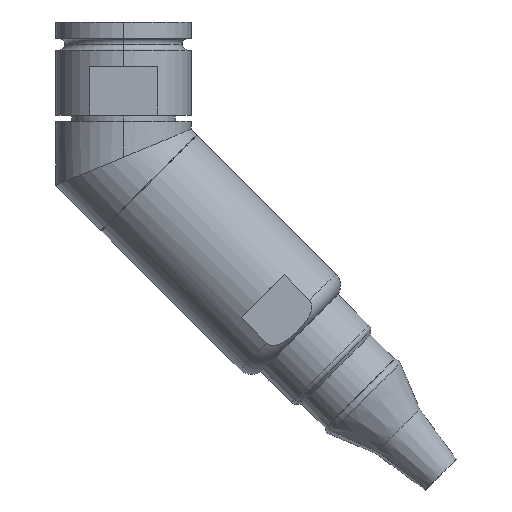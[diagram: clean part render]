
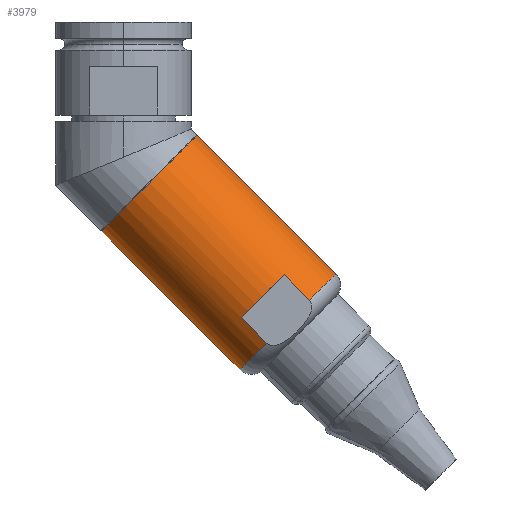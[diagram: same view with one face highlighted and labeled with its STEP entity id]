
A CAD part, left-side view. The second image highlights one B-rep face of the part: STEP entity #3979.
In plain terms, the highlighted cylindrical face has radius 13.208 mm (diameter 26.416 mm), a partial arc.
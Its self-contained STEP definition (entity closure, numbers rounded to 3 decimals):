
#2 = VERTEX_POINT ( 'NONE', #5886 ) ;
#108 = CARTESIAN_POINT ( 'NONE',  ( 0., -32.067, -52.777 ) ) ;
#118 = VERTEX_POINT ( 'NONE', #3607 ) ;
#131 = VECTOR ( 'NONE', #6110, 1000. ) ;
#150 = EDGE_CURVE ( 'NONE', #4440, #2, #1376, .T. ) ;
#167 = EDGE_CURVE ( 'NONE', #353, #3249, #1030, .T. ) ;
#193 = CARTESIAN_POINT ( 'NONE',  ( 0., -22.727, -62.117 ) ) ;
#241 = DIRECTION ( 'NONE',  ( 0., 0.707, 0.707 ) ) ;
#269 = DIRECTION ( 'NONE',  ( 0., -0.707, -0.707 ) ) ;
#353 = VERTEX_POINT ( 'NONE', #193 ) ;
#361 = LINE ( 'NONE', #3958, #2339 ) ;
#443 = EDGE_LOOP ( 'NONE', ( #5225, #2563, #3494, #5213, #1754, #6262, #1544, #1303 ) ) ;
#483 = CARTESIAN_POINT ( 'NONE',  ( 0., -14.375, -16.407 ) ) ;
#519 = CARTESIAN_POINT ( 'NONE',  ( 0., -32.067, -52.777 ) ) ;
#730 = CIRCLE ( 'NONE', #5773, 13.208 ) ;
#977 = VECTOR ( 'NONE', #269, 1000. ) ;
#993 = VERTEX_POINT ( 'NONE', #4071 ) ;
#1030 = LINE ( 'NONE', #1500, #131 ) ;
#1143 = CIRCLE ( 'NONE', #4813, 13.208 ) ;
#1201 = CARTESIAN_POINT ( 'NONE',  ( -11.811, -31.308, -43.658 ) ) ;
#1303 = ORIENTED_EDGE ( 'NONE', *, *, #2730, .F. ) ;
#1376 = CIRCLE ( 'NONE', #5046, 13.208 ) ;
#1426 = DIRECTION ( 'NONE',  ( 0., -0.707, -0.707 ) ) ;
#1452 = CARTESIAN_POINT ( 'NONE',  ( 0., 4.303, -35.086 ) ) ;
#1500 = CARTESIAN_POINT ( 'NONE',  ( 0., 4.303, -35.086 ) ) ;
#1544 = ORIENTED_EDGE ( 'NONE', *, *, #1683, .T. ) ;
#1572 = DIRECTION ( 'NONE',  ( 0., 0.707, 0.707 ) ) ;
#1683 = EDGE_CURVE ( 'NONE', #2, #5489, #5068, .T. ) ;
#1754 = ORIENTED_EDGE ( 'NONE', *, *, #5528, .T. ) ;
#1841 = AXIS2_PLACEMENT_3D ( 'NONE', #4722, #241, #5752 ) ;
#2180 = DIRECTION ( 'NONE',  ( 0., -0.707, 0.707 ) ) ;
#2339 = VECTOR ( 'NONE', #1426, 1000. ) ;
#2553 = CARTESIAN_POINT ( 'NONE',  ( 0., -14.375, -16.407 ) ) ;
#2563 = ORIENTED_EDGE ( 'NONE', *, *, #5064, .T. ) ;
#2578 = DIRECTION ( 'NONE',  ( 0., -0.707, 0.707 ) ) ;
#2647 = DIRECTION ( 'NONE',  ( 0., -0.707, -0.707 ) ) ;
#2680 = LINE ( 'NONE', #1201, #977 ) ;
#2721 = CYLINDRICAL_SURFACE ( 'NONE', #1841, 13.208 ) ;
#2730 = EDGE_CURVE ( 'NONE', #3249, #5489, #1143, .T. ) ;
#3070 = DIRECTION ( 'NONE',  ( 0., 0.707, 0.707 ) ) ;
#3249 = VERTEX_POINT ( 'NONE', #1452 ) ;
#3316 = CARTESIAN_POINT ( 'NONE',  ( 0., -27.127, -47.838 ) ) ;
#3418 = DIRECTION ( 'NONE',  ( 0., 0.707, 0.707 ) ) ;
#3494 = ORIENTED_EDGE ( 'NONE', *, *, #5640, .F. ) ;
#3607 = CARTESIAN_POINT ( 'NONE',  ( -11.811, -31.308, -43.658 ) ) ;
#3936 = CARTESIAN_POINT ( 'NONE',  ( -11.811, -27.886, -56.958 ) ) ;
#3958 = CARTESIAN_POINT ( 'NONE',  ( -11.811, -22.947, -52.019 ) ) ;
#3979 = ADVANCED_FACE ( 'NONE', ( #6257 ), #2721, .T. ) ;
#4026 = VERTEX_POINT ( 'NONE', #3936 ) ;
#4071 = CARTESIAN_POINT ( 'NONE',  ( -11.811, -22.947, -52.019 ) ) ;
#4140 = DIRECTION ( 'NONE',  ( 0., -0.707, 0.707 ) ) ;
#4356 = CARTESIAN_POINT ( 'NONE',  ( 0., -5.036, -25.747 ) ) ;
#4387 = EDGE_CURVE ( 'NONE', #118, #993, #5210, .T. ) ;
#4440 = VERTEX_POINT ( 'NONE', #5376 ) ;
#4722 = CARTESIAN_POINT ( 'NONE',  ( 0., -5.036, -25.747 ) ) ;
#4813 = AXIS2_PLACEMENT_3D ( 'NONE', #4356, #3418, #5413 ) ;
#5046 = AXIS2_PLACEMENT_3D ( 'NONE', #519, #5507, #2578 ) ;
#5064 = EDGE_CURVE ( 'NONE', #353, #4026, #730, .T. ) ;
#5068 = LINE ( 'NONE', #483, #5258 ) ;
#5210 = CIRCLE ( 'NONE', #6066, 13.208 ) ;
#5213 = ORIENTED_EDGE ( 'NONE', *, *, #4387, .F. ) ;
#5225 = ORIENTED_EDGE ( 'NONE', *, *, #167, .F. ) ;
#5258 = VECTOR ( 'NONE', #3070, 1000. ) ;
#5376 = CARTESIAN_POINT ( 'NONE',  ( -11.811, -36.247, -48.597 ) ) ;
#5413 = DIRECTION ( 'NONE',  ( 0., -0.707, 0.707 ) ) ;
#5489 = VERTEX_POINT ( 'NONE', #2553 ) ;
#5507 = DIRECTION ( 'NONE',  ( 0., 0.707, 0.707 ) ) ;
#5528 = EDGE_CURVE ( 'NONE', #118, #4440, #2680, .T. ) ;
#5640 = EDGE_CURVE ( 'NONE', #993, #4026, #361, .T. ) ;
#5752 = DIRECTION ( 'NONE',  ( 0., -0.707, 0.707 ) ) ;
#5773 = AXIS2_PLACEMENT_3D ( 'NONE', #108, #1572, #4140 ) ;
#5886 = CARTESIAN_POINT ( 'NONE',  ( 0., -41.406, -43.438 ) ) ;
#6066 = AXIS2_PLACEMENT_3D ( 'NONE', #3316, #2647, #2180 ) ;
#6110 = DIRECTION ( 'NONE',  ( 0., 0.707, 0.707 ) ) ;
#6257 = FACE_OUTER_BOUND ( 'NONE', #443, .T. ) ;
#6262 = ORIENTED_EDGE ( 'NONE', *, *, #150, .T. ) ;
